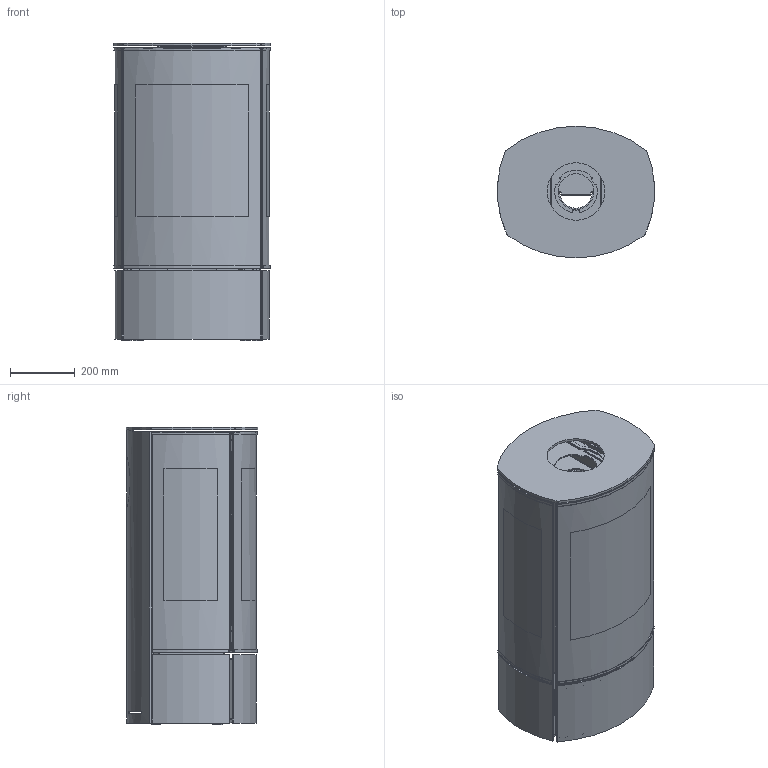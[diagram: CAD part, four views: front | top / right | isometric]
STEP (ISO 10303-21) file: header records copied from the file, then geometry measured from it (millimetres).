
FILE_DESCRIPTION(/* description */ (''),/* implementation_level */ '2;1');
FILE_NAME(/* name */ '14 Caro 90 G Gas_14-0113.stp',/* time_stamp */ '2023-11-16T12:53:48+01:00',/* author */ ('ksj'),/* organization */ (''),/* preprocessor_version */ 'ST-DEVELOPER v19.2',/* originating_system */ 'Autodesk Inventor 2023',/* authorisation */ '');
FILE_SCHEMA (('AUTOMOTIVE_DESIGN { 1 0 10303 214 3 1 1 }'));
Products named in the file (1): 14 Caro 90 G Gas_14-0113
Bounding box: 484.89 x 407 x 920 mm (x, y, z)
Volume: 15585145.4 mm3; surface area: 7246568.4 mm2
Topology: 66 solids, 66 shells, 4392 faces, 11965 edges, 7703 vertices
Faces by surface type: plane 2669, cylinder 1560, bspline 113, cone 40, torus 8, sphere 2
Full cylindrical faces by diameter (mm): 10 x4, 100 x1, 110 x2, 178 x1
Entity records: 149583 total; most frequent: CARTESIAN_POINT 32400, ORIENTED_EDGE 23926, DIRECTION 23065, EDGE_CURVE 11963, LINE 8017, VECTOR 8017, VERTEX_POINT 7699, AXIS2_PLACEMENT_3D 7524
